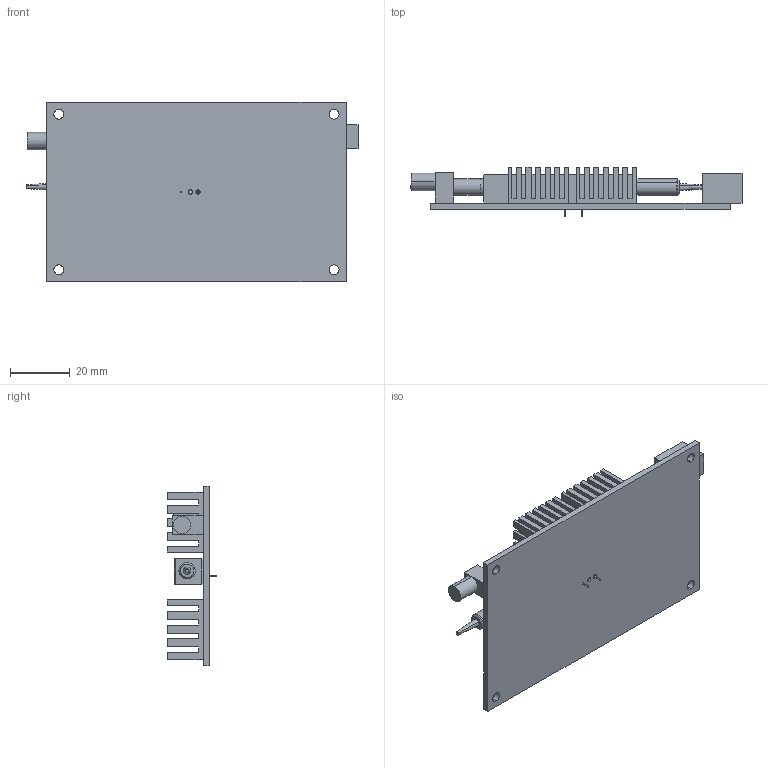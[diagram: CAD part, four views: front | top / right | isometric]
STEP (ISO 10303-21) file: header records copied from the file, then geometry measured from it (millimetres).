
FILE_DESCRIPTION (( 'STEP AP203' ), '1' );
FILE_NAME ('NVOA-32512532U3 and NVDR-112221112.STEP', '2025-03-21T21:26:12', ( '' ), ( '' ), 'SwSTEP 2.0', 'SolidWorks 2018', '' );
FILE_SCHEMA (( 'CONFIG_CONTROL_DESIGN' ));
Length unit declared in the file: inch
Products named in the file (11): PIN; EO; Dual stage NVOA box; Dual stage NVOA cover; BD2; End cap; 100Khz PCB; BD; NVOA-32512532U3 and NVDR-112221112; PBS; Assembly for dual stage NVOA
Assembly tree (13 placements, depth 3):
  NVOA-32512532U3 and NVDR-112221112
    100Khz PCB
    Assembly for dual stage NVOA
      Dual stage NVOA box
      BD
      EO  x2
      PBS
      BD2
      Dual stage NVOA cover
      End cap  x2
      PIN  x2
Bounding box: 110.96 x 16.5 x 60 mm (x, y, z)
Volume: 24279.8 mm3; surface area: 32186.5 mm2
Topology: 20 solids, 20 shells, 907 faces, 2344 edges, 1548 vertices
Faces by surface type: plane 791, cylinder 88, cone 28
Entity records: 27829 total; most frequent: CARTESIAN_POINT 5137, ORIENTED_EDGE 4504, DIRECTION 4150, EDGE_CURVE 2252, LINE 2064, VECTOR 2064, VERTEX_POINT 1490, AXIS2_PLACEMENT_3D 1043
